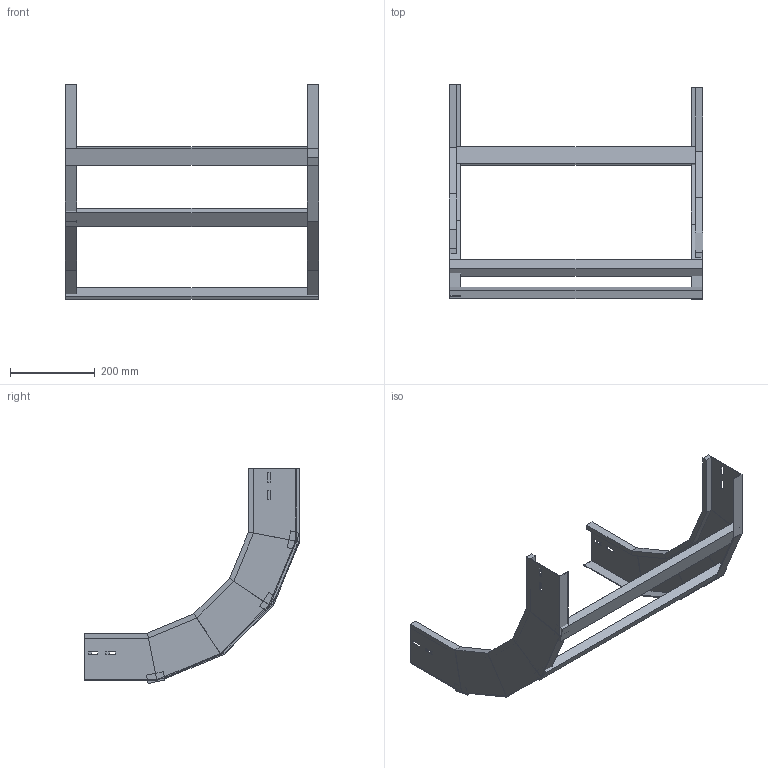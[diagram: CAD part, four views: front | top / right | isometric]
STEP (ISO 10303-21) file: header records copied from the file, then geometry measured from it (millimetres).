
FILE_DESCRIPTION (( 'STEP AP214' ), '1' );
FILE_NAME ('A2X30B3J600XX.step', '2025-04-02T09:16:42', ( '' ), ( '' ), 'SwSTEP 2.0', 'SolidWorks 2023', '' );
FILE_SCHEMA (( 'AUTOMOTIVE_DESIGN' ));
Length unit declared in the file: millimetre
Products named in the file (3): LONGH.SALITA_90°_H112.5_R300; TRAVERSINO_600; A2X30B3J600XX
Assembly tree (5 placements, depth 2):
  A2X30B3J600XX
    LONGH.SALITA_90°_H112.5_R300  x2
    TRAVERSINO_600  x3
Bounding box: 600 x 509.89 x 507.89 mm (x, y, z)
Volume: 2119909.2 mm3; surface area: 688722.1 mm2
Topology: 5 solids, 5 shells, 134 faces, 308 edges, 184 vertices
Faces by surface type: plane 134
Entity records: 1864 total; most frequent: CARTESIAN_POINT 308, ORIENTED_EDGE 296, DIRECTION 292, VECTOR 148, LINE 148, EDGE_CURVE 148, VERTEX_POINT 88, EDGE_LOOP 72
